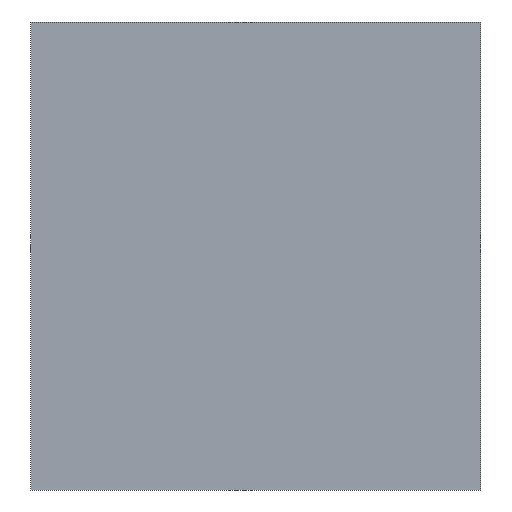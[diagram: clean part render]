
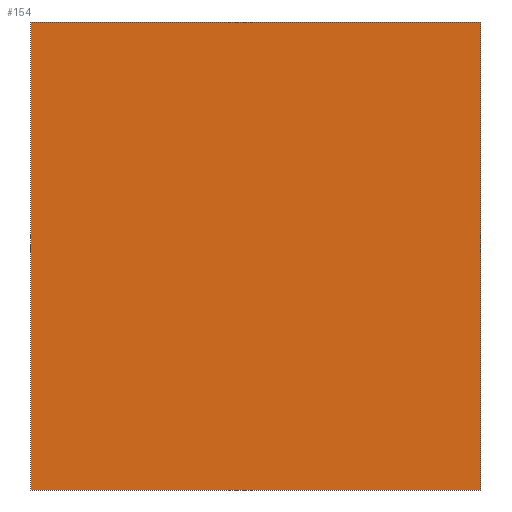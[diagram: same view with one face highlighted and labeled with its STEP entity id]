
A CAD part, front view. The second image highlights one B-rep face of the part: STEP entity #154.
In plain terms, the highlighted planar face has unit normal (0, -1, 0).
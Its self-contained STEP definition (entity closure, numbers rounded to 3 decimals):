
#14 = VERTEX_POINT ( 'NONE', #62 ) ;
#33 = AXIS2_PLACEMENT_3D ( 'NONE', #126, #507, #275 ) ;
#39 = ORIENTED_EDGE ( 'NONE', *, *, #271, .F. ) ;
#53 = CARTESIAN_POINT ( 'NONE',  ( -25., 0., -26. ) ) ;
#62 = CARTESIAN_POINT ( 'NONE',  ( -25., 0., 26. ) ) ;
#68 = LINE ( 'NONE', #419, #115 ) ;
#115 = VECTOR ( 'NONE', #492, 1000. ) ;
#126 = CARTESIAN_POINT ( 'NONE',  ( 0., 0., 0. ) ) ;
#133 = ORIENTED_EDGE ( 'NONE', *, *, #362, .F. ) ;
#149 = DIRECTION ( 'NONE',  ( -1., 0., 0. ) ) ;
#154 = ADVANCED_FACE ( 'NONE', ( #345 ), #272, .T. ) ;
#155 = CARTESIAN_POINT ( 'NONE',  ( 25., 0., -26. ) ) ;
#156 = EDGE_LOOP ( 'NONE', ( #39, #327, #133, #197 ) ) ;
#197 = ORIENTED_EDGE ( 'NONE', *, *, #352, .F. ) ;
#198 = CARTESIAN_POINT ( 'NONE',  ( 25., 0., 26. ) ) ;
#210 = VECTOR ( 'NONE', #292, 1000. ) ;
#225 = VERTEX_POINT ( 'NONE', #198 ) ;
#271 = EDGE_CURVE ( 'NONE', #225, #426, #489, .T. ) ;
#272 = PLANE ( 'NONE',  #33 ) ;
#275 = DIRECTION ( 'NONE',  ( 0., 0., -1. ) ) ;
#281 = VERTEX_POINT ( 'NONE', #53 ) ;
#292 = DIRECTION ( 'NONE',  ( 1., 0., 0. ) ) ;
#293 = DIRECTION ( 'NONE',  ( 0., 0., -1. ) ) ;
#302 = LINE ( 'NONE', #491, #210 ) ;
#327 = ORIENTED_EDGE ( 'NONE', *, *, #428, .F. ) ;
#345 = FACE_OUTER_BOUND ( 'NONE', #156, .T. ) ;
#352 = EDGE_CURVE ( 'NONE', #426, #281, #416, .T. ) ;
#362 = EDGE_CURVE ( 'NONE', #281, #14, #68, .T. ) ;
#416 = LINE ( 'NONE', #499, #505 ) ;
#419 = CARTESIAN_POINT ( 'NONE',  ( -25., 0., 26. ) ) ;
#426 = VERTEX_POINT ( 'NONE', #155 ) ;
#428 = EDGE_CURVE ( 'NONE', #14, #225, #302, .T. ) ;
#443 = CARTESIAN_POINT ( 'NONE',  ( 25., 0., 26. ) ) ;
#489 = LINE ( 'NONE', #443, #498 ) ;
#491 = CARTESIAN_POINT ( 'NONE',  ( -25., 0., 26. ) ) ;
#492 = DIRECTION ( 'NONE',  ( 0., 0., 1. ) ) ;
#498 = VECTOR ( 'NONE', #293, 1000. ) ;
#499 = CARTESIAN_POINT ( 'NONE',  ( -25., 0., -26. ) ) ;
#505 = VECTOR ( 'NONE', #149, 1000. ) ;
#507 = DIRECTION ( 'NONE',  ( 0., -1., 0. ) ) ;
